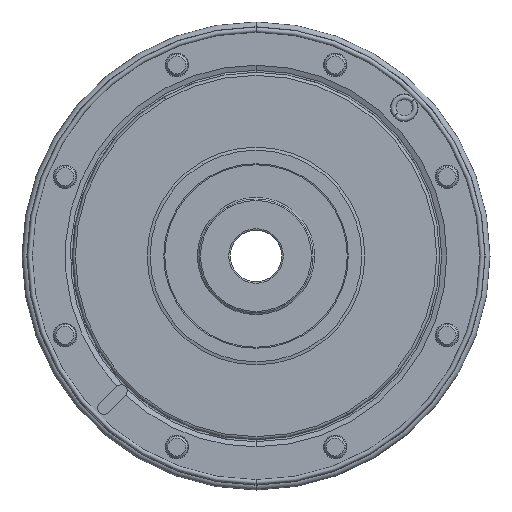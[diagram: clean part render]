
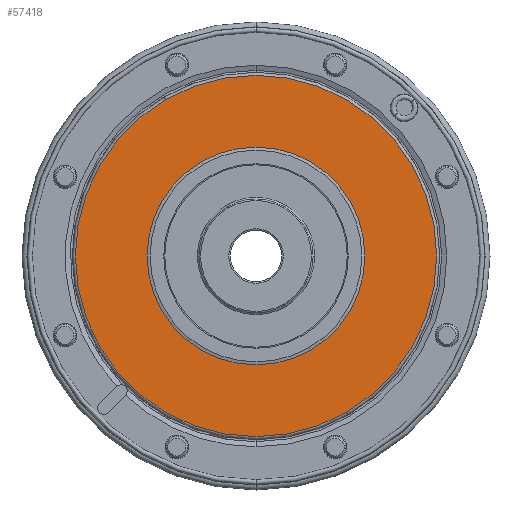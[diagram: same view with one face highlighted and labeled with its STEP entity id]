
A CAD part, front view. The second image highlights one B-rep face of the part: STEP entity #57418.
In plain terms, the highlighted planar face has unit normal (0, -1, 0).
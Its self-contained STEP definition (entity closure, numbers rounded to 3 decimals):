
#7603 = AXIS2_PLACEMENT_3D ( 'NONE', #74349, #122851, #52484 ) ;
#7885 = CARTESIAN_POINT ( 'NONE',  ( -76.689, 92.555, 180.728 ) ) ;
#11459 = CARTESIAN_POINT ( 'NONE',  ( -109.889, 92.555, 238.232 ) ) ;
#13443 = ORIENTED_EDGE ( 'NONE', *, *, #90202, .T. ) ;
#13865 = AXIS2_PLACEMENT_3D ( 'NONE', #20359, #31687, #30828 ) ;
#14500 = CARTESIAN_POINT ( 'NONE',  ( -96.699, 92.555, 215.386 ) ) ;
#14627 = FACE_BOUND ( 'NONE', #26830, .T. ) ;
#20359 = CARTESIAN_POINT ( 'NONE',  ( -111.347, 92.555, 160.718 ) ) ;
#20975 = AXIS2_PLACEMENT_3D ( 'NONE', #103775, #82822, #43017 ) ;
#25613 = CARTESIAN_POINT ( 'NONE',  ( -56.679, 92.555, 146.07 ) ) ;
#26456 = VERTEX_POINT ( 'NONE', #115755 ) ;
#26830 = EDGE_LOOP ( 'NONE', ( #52465, #30635 ) ) ;
#28765 = CARTESIAN_POINT ( 'NONE',  ( -76.689, 92.555, 180.728 ) ) ;
#28768 = AXIS2_PLACEMENT_3D ( 'NONE', #7885, #107105, #66915 ) ;
#30635 = ORIENTED_EDGE ( 'NONE', *, *, #32788, .F. ) ;
#30828 = DIRECTION ( 'NONE',  ( 1., 0., 0. ) ) ;
#31687 = DIRECTION ( 'NONE',  ( 0., 1., 0. ) ) ;
#32788 = EDGE_CURVE ( 'NONE', #55635, #114627, #48688, .T. ) ;
#33407 = ORIENTED_EDGE ( 'NONE', *, *, #113419, .T. ) ;
#41869 = VERTEX_POINT ( 'NONE', #11459 ) ;
#43017 = DIRECTION ( 'NONE',  ( 0.5, 0., -0.866 ) ) ;
#48688 = CIRCLE ( 'NONE', #28768, 40.02 ) ;
#48928 = DIRECTION ( 'NONE',  ( 0., -1., 0. ) ) ;
#52015 = CIRCLE ( 'NONE', #20975, 66.4 ) ;
#52465 = ORIENTED_EDGE ( 'NONE', *, *, #119904, .F. ) ;
#52484 = DIRECTION ( 'NONE',  ( 0.5, 0., -0.866 ) ) ;
#55635 = VERTEX_POINT ( 'NONE', #14500 ) ;
#57418 = ADVANCED_FACE ( 'NONE', ( #71066, #14627 ), #81577, .F. ) ;
#66915 = DIRECTION ( 'NONE',  ( -0.5, 0., 0.866 ) ) ;
#69084 = DIRECTION ( 'NONE',  ( -0.5, 0., 0.866 ) ) ;
#71066 = FACE_OUTER_BOUND ( 'NONE', #93534, .T. ) ;
#74349 = CARTESIAN_POINT ( 'NONE',  ( -76.689, 92.555, 180.728 ) ) ;
#81577 = PLANE ( 'NONE',  #13865 ) ;
#82822 = DIRECTION ( 'NONE',  ( 0., -1., 0. ) ) ;
#90202 = EDGE_CURVE ( 'NONE', #26456, #41869, #97625, .T. ) ;
#92451 = AXIS2_PLACEMENT_3D ( 'NONE', #28765, #48928, #69084 ) ;
#93534 = EDGE_LOOP ( 'NONE', ( #13443, #33407 ) ) ;
#97625 = CIRCLE ( 'NONE', #7603, 66.4 ) ;
#103075 = CIRCLE ( 'NONE', #92451, 40.02 ) ;
#103775 = CARTESIAN_POINT ( 'NONE',  ( -76.689, 92.555, 180.728 ) ) ;
#107105 = DIRECTION ( 'NONE',  ( 0., -1., 0. ) ) ;
#113419 = EDGE_CURVE ( 'NONE', #41869, #26456, #52015, .T. ) ;
#114627 = VERTEX_POINT ( 'NONE', #25613 ) ;
#115755 = CARTESIAN_POINT ( 'NONE',  ( -43.489, 92.555, 123.224 ) ) ;
#119904 = EDGE_CURVE ( 'NONE', #114627, #55635, #103075, .T. ) ;
#122851 = DIRECTION ( 'NONE',  ( 0., -1., 0. ) ) ;
